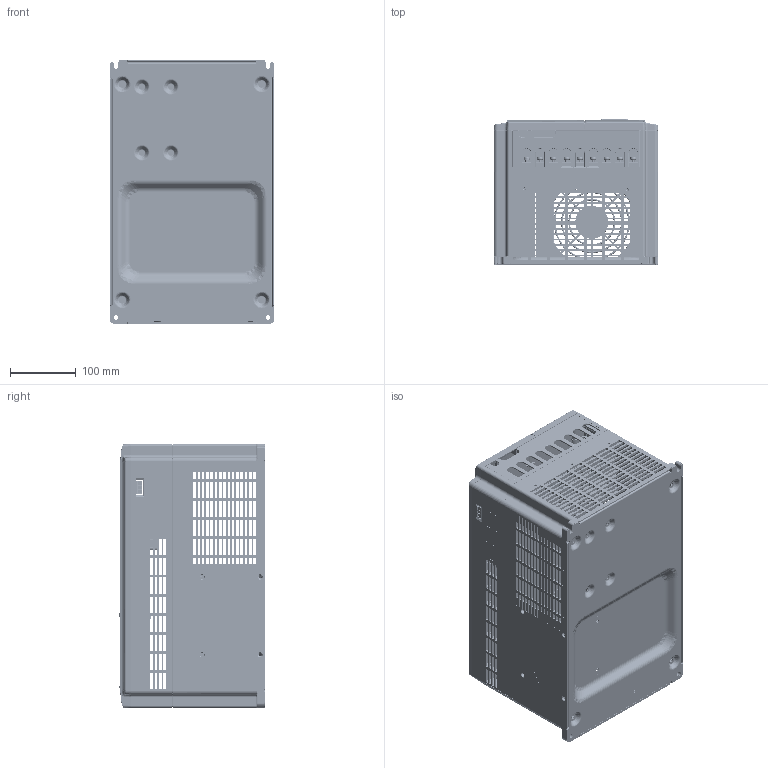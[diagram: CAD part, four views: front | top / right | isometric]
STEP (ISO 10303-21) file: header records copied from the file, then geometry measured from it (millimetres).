
FILE_DESCRIPTION((''),'2;1');
FILE_NAME('000-MVT373ZGB-520_ASM','2021-12-13T',('h2718'),(''),'CREO PARAMETRIC BY PTC INC, 2015290','CREO PARAMETRIC BY PTC INC, 2015290','');
FILE_SCHEMA(('AP203_CONFIGURATION_CONTROLLED_3D_DESIGN_OF_MECHANICAL_PARTS_AND_ASSEMBLIES_MIM_LF { 1 0 10303 403 2 1 2 }'));
Products named in the file (13): 8074072-01_11_1_4; 8074072-02_9_6; 20211972_56_4; 8074072-03_2_5; 8074072_ASM_ASM; 8038099_5_2; 02-ELEC-MD500-37KW; 520-AJZJ-02-20211209; 520-KZB-20211209; 001-520-ZUJIAN_ASM; 20212502; 20441163; 000-MVT373ZGB-520_ASM
Assembly tree (12 placements, depth 3):
  000-MVT373ZGB-520_ASM
    8074072_ASM_ASM
      8074072-01_11_1_4
      8074072-02_9_6
      20211972_56_4
      8074072-03_2_5
    8038099_5_2
    02-ELEC-MD500-37KW
    001-520-ZUJIAN_ASM
      520-AJZJ-02-20211209
      520-KZB-20211209
    20212502
    20441163
Bounding box: 250.01 x 220.77 x 400 mm (x, y, z)
Volume: 1596063.7 mm3; surface area: 1397494.8 mm2
Topology: 50 solids, 69 shells, 16099 faces, 46816 edges, 30844 vertices
Faces by surface type: plane 10544, cylinder 3512, cone 636, bspline 635, torus 555, extrusion 156, sphere 51, revolution 10
Entity records: 799478 total; most frequent: CARTESIAN_POINT 207140, ORIENTED_EDGE 91811, DIRECTION 81444, PRESENTATION_STYLE_ASSIGNMENT 50467, STYLED_ITEM 47093, CURVE_STYLE 47038, EDGE_CURVE 45925, VECTOR 33877
